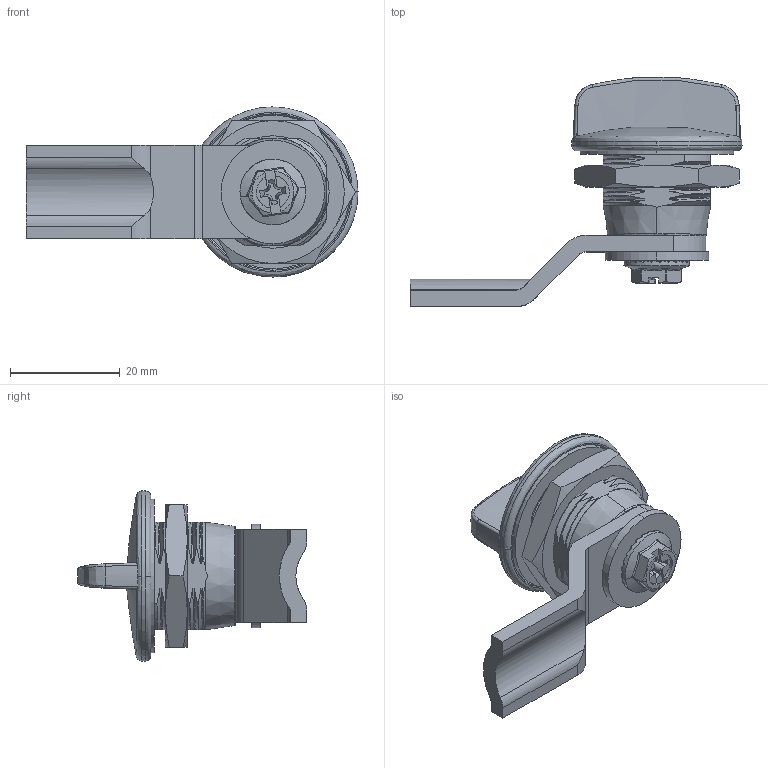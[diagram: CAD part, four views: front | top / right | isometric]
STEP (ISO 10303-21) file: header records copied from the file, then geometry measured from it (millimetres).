
FILE_DESCRIPTION (( 'STEP AP214' ), '1' );
FILE_NAME ('CUYUE.MS705-3C.STEP', '2026-06-23T01:34:01', ( '' ), ( '' ), 'SwSTEP 2.0', 'SolidWorks 2020', '' );
FILE_SCHEMA (( 'AUTOMOTIVE_DESIGN' ));
Length unit declared in the file: millimetre
Products named in the file (7): 8SJ-MS705-3C-4-0040; M22X1-5; 8SJ-S1W-0006; SW6X8; 8SJ-MS705-3C-3-0010; CUYUE.MS705-3C; 錨璃1^MS705-3C
Assembly tree (6 placements, depth 2):
  CUYUE.MS705-3C
    8SJ-MS705-3C-3-0010
    8SJ-MS705-3C-4-0040
    M22X1-5
    8SJ-S1W-0006
    SW6X8
    錨璃1^MS705-3C
Bounding box: 60.48 x 41.86 x 31 mm (x, y, z)
Volume: 10120 mm3; surface area: 9828.4 mm2
Topology: 4 solids, 8 shells, 651 faces, 1767 edges, 1036 vertices
Faces by surface type: bspline 314, cylinder 195, plane 98, cone 39, torus 5
Entity records: 35787 total; most frequent: CARTESIAN_POINT 16133, ORIENTED_EDGE 3326, EDGE_CURVE 1667, DIRECTION 1471, VERTEX_POINT 1036, B_SPLINE_CURVE_WITH_KNOTS 934, UNCERTAINTY_MEASURE_WITH_UNIT 663, EDGE_LOOP 661
